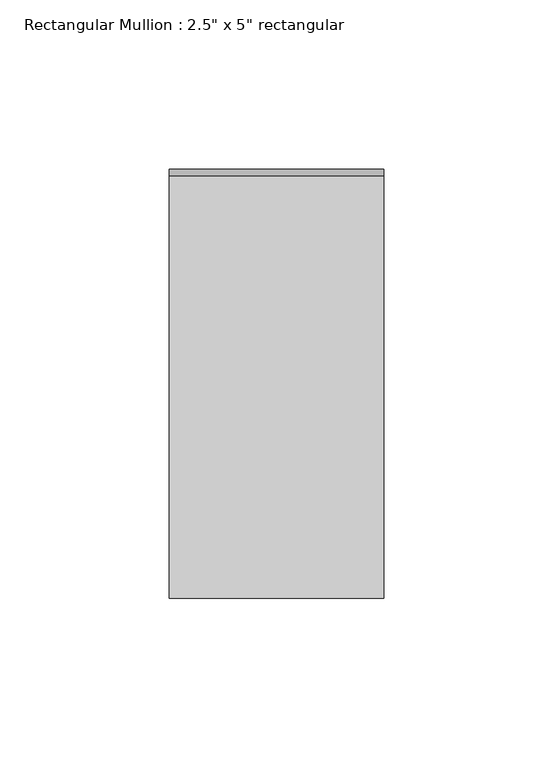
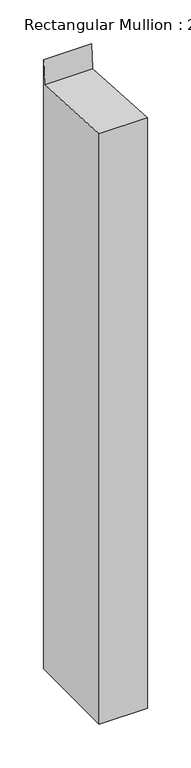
"""IFC4 building model written with IfcOpenShell, lengths in millimetres: member geometry."""

from ifc_helpers import new_model, si_unit, frame, origin, place, context, project, spatial, polyline, outline, extrude, source, transform, mapped, element, save


def member_c839a1ff(model_context):
    return source(origin(), model_context, "Body", "SweptSolid", [
        extrude(outline(polyline([(-63.5, 3.8736342), (61.4149606, -3.8662198), (63.5, 29.7846233), (63.5, -819.15), (-63.5, -819.15), (-63.5, 3.8736342)])), frame((-63.5, 0.0, 0.0), z_axis=(1.0, 0.0, 0.0), x_axis=(0.0, 1.0, 0.0)), (0.0, 0.0, 1.0), 63.5),
    ])


if __name__ == "__main__":
    model = new_model("IFC4")
    model_context = context("Model", 3, world=origin())
    ifc_project = project(units=[si_unit("LENGTHUNIT", "METRE", prefix="MILLI")], contexts=[model_context])
    site = spatial("IfcSite", under=ifc_project)
    building = spatial("IfcBuilding", under=site)
    placement = place(None, origin())
    member_shape = member_c839a1ff(model_context)
    element("IfcMember", 1, ObjectType="Rectangular Mullion : 2.5\" x 5\" rectangular", at=placement, inside=building, context=model_context, shape_type="MappedRepresentation", body=[
        mapped(member_shape, transform((0.0, 0.0, 0.0), x_axis=(1.0, 0.0, 0.0), y_axis=(0.0, 1.0, 0.0), z_axis=(0.0, 0.0, 1.0))),
    ])
    save(model, "model.ifc")
